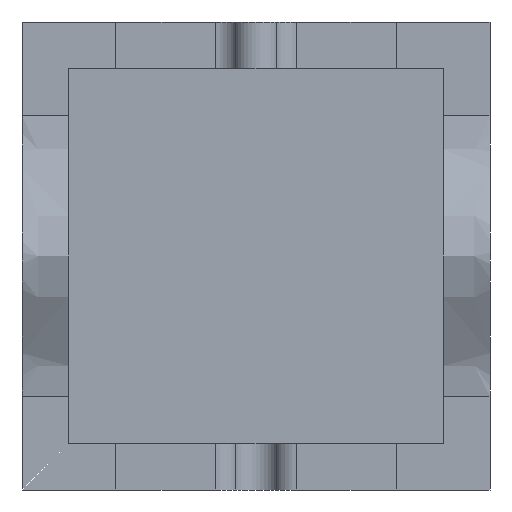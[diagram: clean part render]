
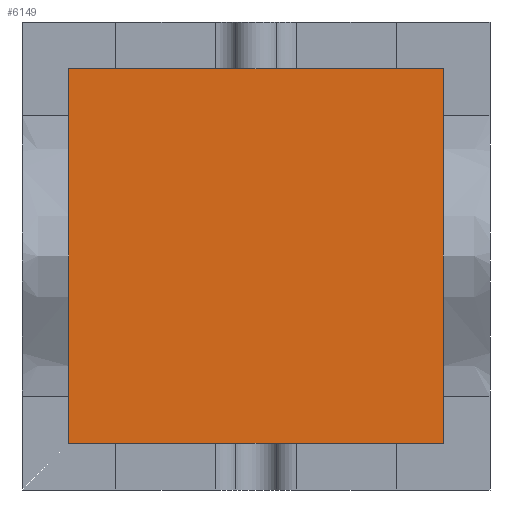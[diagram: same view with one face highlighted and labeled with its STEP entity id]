
A CAD part, front view. The second image highlights one B-rep face of the part: STEP entity #6149.
In plain terms, the highlighted planar face has unit normal (0, -1, 0).
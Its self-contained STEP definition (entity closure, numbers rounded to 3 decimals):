
#6023=CARTESIAN_POINT('Vertex',(-20.,-30.,-20.)) ;
#6028=CARTESIAN_POINT('Line Origine',(-20.,-30.,60.)) ;
#6032=CARTESIAN_POINT('Vertex',(-20.,-30.,140.)) ;
#6059=CARTESIAN_POINT('Line Origine',(60.,-30.,140.)) ;
#6063=CARTESIAN_POINT('Vertex',(140.,-30.,140.)) ;
#6090=CARTESIAN_POINT('Line Origine',(140.,-30.,60.)) ;
#6094=CARTESIAN_POINT('Vertex',(140.,-30.,-20.)) ;
#6121=CARTESIAN_POINT('Line Origine',(60.,-30.,-20.)) ;
#6138=CARTESIAN_POINT('Axis2P3D Location',(0.,-30.,0.)) ;
#6029=DIRECTION('Vector Direction',(0.,0.,-1.)) ;
#6060=DIRECTION('Vector Direction',(1.,0.,0.)) ;
#6091=DIRECTION('Vector Direction',(0.,0.,1.)) ;
#6122=DIRECTION('Vector Direction',(-1.,0.,0.)) ;
#6139=DIRECTION('Axis2P3D Direction',(0.,1.,0.)) ;
#6140=DIRECTION('Axis2P3D XDirection',(-1.,0.,0.)) ;
#6141=AXIS2_PLACEMENT_3D('Plane Axis2P3D',#6138,#6139,#6140) ;
#6144=ORIENTED_EDGE('',*,*,#6125,.F.) ;
#6145=ORIENTED_EDGE('',*,*,#6096,.F.) ;
#6146=ORIENTED_EDGE('',*,*,#6065,.F.) ;
#6147=ORIENTED_EDGE('',*,*,#6034,.F.) ;
#6030=VECTOR('Line Direction',#6029,1.) ;
#6061=VECTOR('Line Direction',#6060,1.) ;
#6092=VECTOR('Line Direction',#6091,1.) ;
#6123=VECTOR('Line Direction',#6122,1.) ;
#6149=ADVANCED_FACE('Cavity-molde',(#6148),#6142,.F.) ;
#6034=EDGE_CURVE('',#6024,#6033,#6031,.F.) ;
#6065=EDGE_CURVE('',#6033,#6064,#6062,.T.) ;
#6096=EDGE_CURVE('',#6064,#6095,#6093,.F.) ;
#6125=EDGE_CURVE('',#6095,#6024,#6124,.T.) ;
#6143=EDGE_LOOP('',(#6144,#6145,#6146,#6147)) ;
#6148=FACE_OUTER_BOUND('',#6143,.T.) ;
#6031=LINE('Line',#6028,#6030) ;
#6062=LINE('Line',#6059,#6061) ;
#6093=LINE('Line',#6090,#6092) ;
#6124=LINE('Line',#6121,#6123) ;
#6142=PLANE('',#6141) ;
#6024=VERTEX_POINT('',#6023) ;
#6033=VERTEX_POINT('',#6032) ;
#6064=VERTEX_POINT('',#6063) ;
#6095=VERTEX_POINT('',#6094) ;
